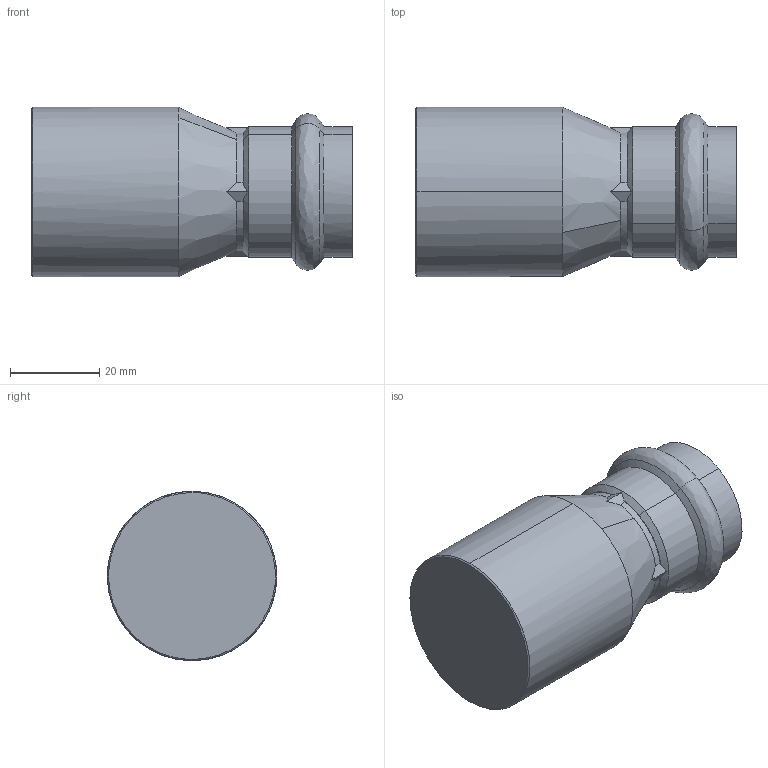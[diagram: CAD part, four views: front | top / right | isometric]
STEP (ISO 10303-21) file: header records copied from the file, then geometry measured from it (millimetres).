
FILE_DESCRIPTION(('STEP AP214'),'1');
FILE_NAME('pim0004350.stp','2015-04-30T10:42:47',('Cad-Pim'),('TransMagic, Inc.'),'TMR11sp0','TransMagic R11',' ');
FILE_SCHEMA(('AUTOMOTIVE_DESIGN'));
Length unit declared in the file: millimetre
Products named in the file (1): pim0004350
Bounding box: 72 x 38.05 x 38.05 mm (x, y, z)
Volume: 55637.9 mm3; surface area: 11809.7 mm2
Topology: 1 solids, 1 shells, 39 faces, 110 edges, 74 vertices
Faces by surface type: bspline 19, cylinder 10, cone 10
Entity records: 1782 total; most frequent: CARTESIAN_POINT 635, ORIENTED_EDGE 220, EDGE_CURVE 110, DIRECTION 106, VERTEX_POINT 74, AXIS2_PLACEMENT_3D 44, STYLED_ITEM 40, PRESENTATION_STYLE_ASSIGNMENT 40
